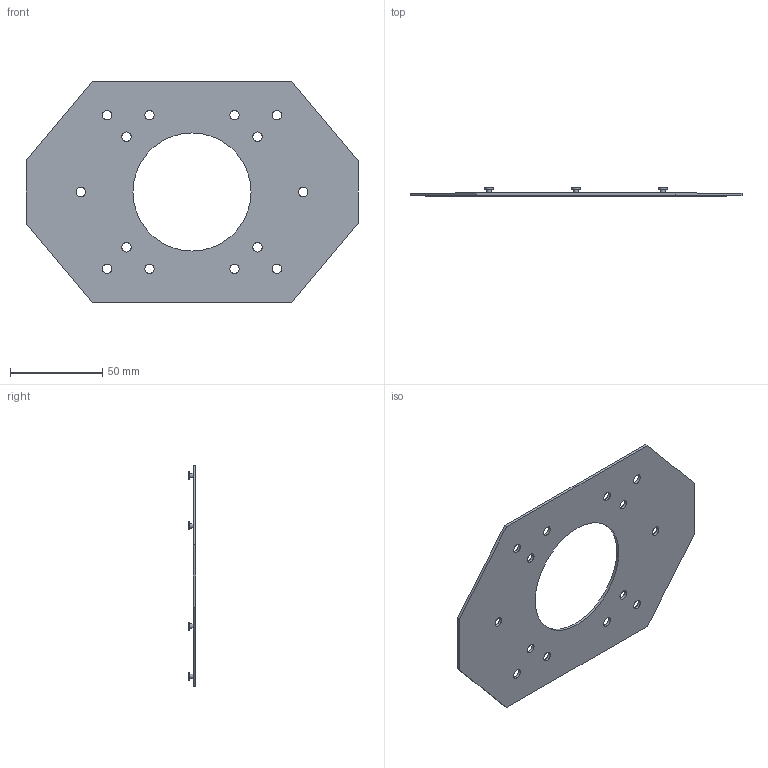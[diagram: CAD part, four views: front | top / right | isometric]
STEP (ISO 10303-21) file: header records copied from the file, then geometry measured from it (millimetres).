
FILE_DESCRIPTION(/* description */ ('STEP AP242','CAx-IF Rec.Pracs.---Representation and Presentation of Product Manufacturing Information (PMI)---4.0---2014-10-13','CAx-IF Rec.Pracs.---3D Tessellated Geometry---0.4---2014-09-14','2;1'),/* implementation_level */ '2;1');
FILE_NAME(/* name */ '6634dc8c7859092b1b9c27d9',/* time_stamp */ '2024-05-03T12:46:04Z',/* author */ (''),/* organization */ (''),/* preprocessor_version */ 'ST-DEVELOPER v20',/* originating_system */ ' ',/* authorisation */ ' ');
FILE_SCHEMA (('AP242_MANAGED_MODEL_BASED_3D_ENGINEERING_MIM_LF { 1 0 10303 442 1 1 4 }'));
Length unit declared in the file: metre
Products named in the file (1): UMP 5
Bounding box: 180 x 4.25 x 120 mm (x, y, z)
Volume: 22632 mm3; surface area: 31692.4 mm2
Topology: 1 solids, 1 shells, 49 faces, 105 edges, 70 vertices
Faces by surface type: cylinder 27, plane 22
Full cylindrical faces by diameter (mm): 2.5 x6, 4.5 x6, 5.1 x14, 64 x1
Entity records: 1300 total; most frequent: DIRECTION 232, CARTESIAN_POINT 198, ORIENTED_EDGE 156, EDGE_LOOP 118, FACE_BOUND 118, AXIS2_PLACEMENT_3D 104, EDGE_CURVE 78, VERTEX_POINT 70
